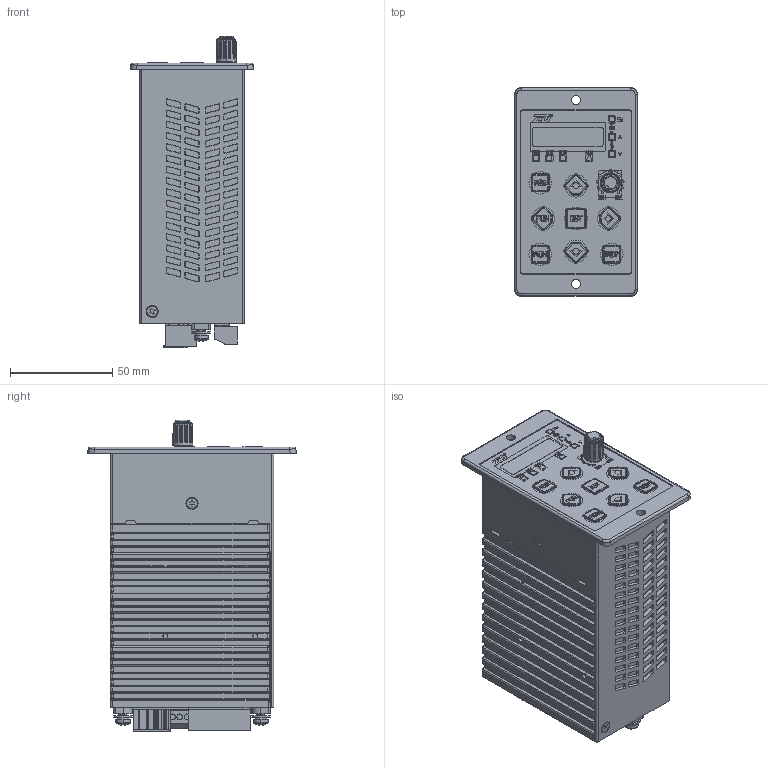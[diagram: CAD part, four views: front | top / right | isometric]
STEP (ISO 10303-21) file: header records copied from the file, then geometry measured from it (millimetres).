
FILE_DESCRIPTION (( 'STEP AP203' ), '1' );
FILE_NAME ('ZDRV.C20-200L-DR.STEP', '2023-04-24T05:00:45', ( '' ), ( '' ), 'SwSTEP 2.0', 'SolidWorks 2019', '' );
FILE_SCHEMA (( 'CONFIG_CONTROL_DESIGN' ));
Products named in the file (1): ZDRV.C20-200L-DR
Bounding box: 60 x 102 x 152.58 mm (x, y, z)
Volume: 520255.2 mm3; surface area: 76641.8 mm2
Topology: 1 solids, 42 shells, 6580 faces, 17401 edges, 11320 vertices
Faces by surface type: plane 3670, cylinder 1137, bspline 1041, cone 564, torus 148, sphere 20
Entity records: 246621 total; most frequent: CARTESIAN_POINT 90367, ORIENTED_EDGE 34746, DIRECTION 28943, EDGE_CURVE 17373, VERTEX_POINT 11320, LINE 11319, VECTOR 11319, AXIS2_PLACEMENT_3D 8812
